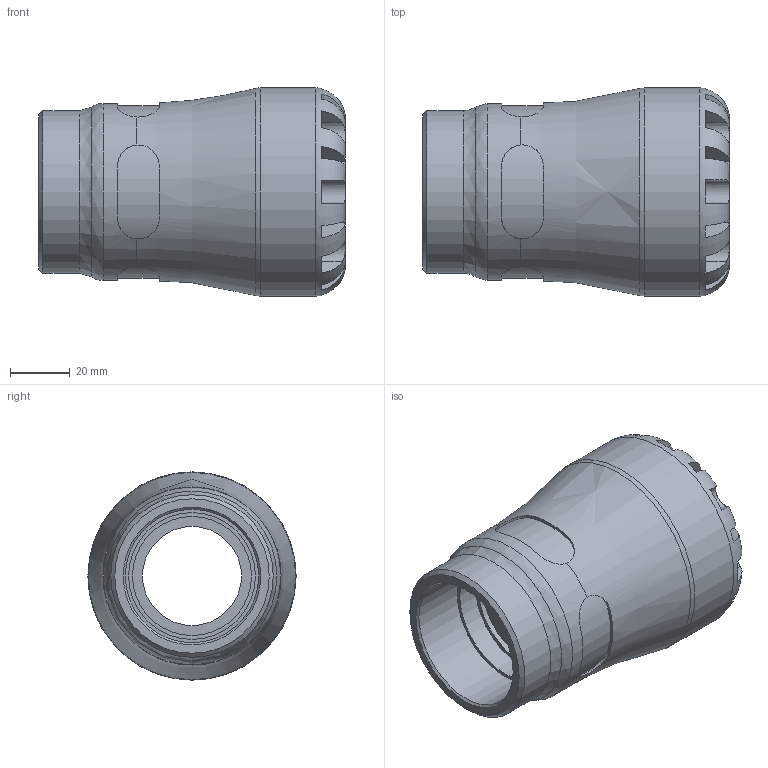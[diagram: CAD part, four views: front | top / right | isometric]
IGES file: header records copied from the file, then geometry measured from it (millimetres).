
Global section: file name: 1003G0040015_1903G0040015.ipt; native system: Autodesk Inventor 2015; preprocessor: unknown; author: KIM; date: 20190127.091358; units: millimetre
Bounding box: 103 x 70 x 70 mm (x, y, z)
Volume: 178270.6 mm3; surface area: 39154 mm2
Topology: 1 solids, 1 shells, 106 faces, 281 edges, 181 vertices
Faces by surface type: plane 62, revolution 28, cylinder 15, cone 1
Full cylindrical faces by diameter (mm): 54.6 x1, 59.5 x1, 70 x1
